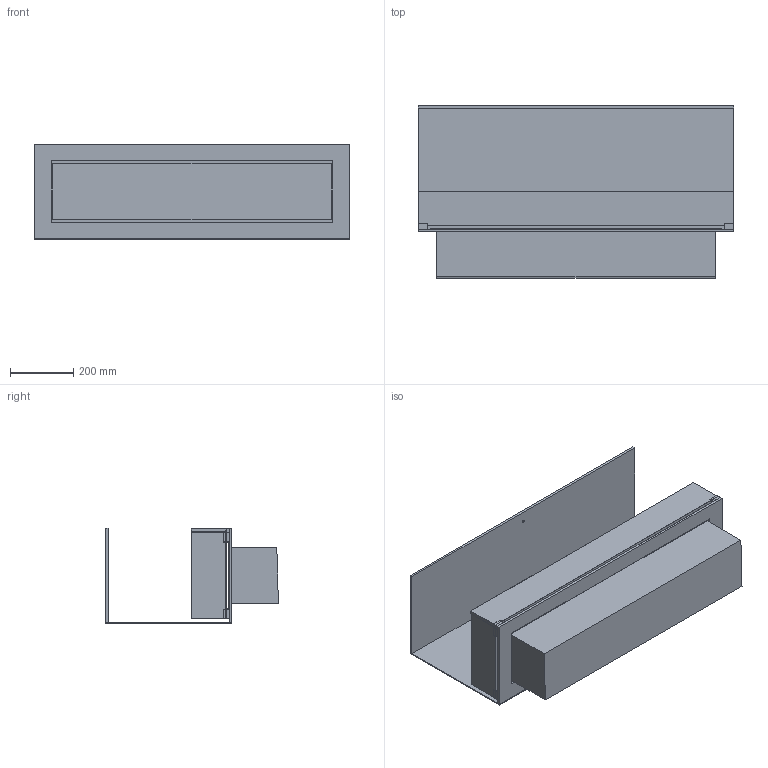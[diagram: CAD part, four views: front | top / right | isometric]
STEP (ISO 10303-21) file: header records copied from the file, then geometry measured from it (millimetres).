
FILE_DESCRIPTION (( 'STEP AP203' ), '1' );
FILE_NAME ('Montreal open to front and 2 sides 1000 F6.STEP', '2024-03-22T10:29:13', ( '' ), ( '' ), 'SwSTEP 2.0', 'SolidWorks 2023', '' );
FILE_SCHEMA (( 'CONFIG_CONTROL_DESIGN' ));
Length unit declared in the file: millimetre
Products named in the file (9): Part4^P&G -1120SI Montreal Single AUTOShowroom -look book; Montreal open to front and 2 sides 1000 F6; Glas holder flad med sider 10mm; 8mm alu Top - P&G -1120SIShowroom -look book; Part2^P&G -1120SI Montreal Single AUTOShowroom -look book; Denver F6; Part3^P&G -1120SI Montreal Single AUTOShowroom -look book; 8mm alu Bund - P&G -1120SIShowroom -look book; 3mm alu Bag - P&G -1120SIShowroom -look book
Assembly tree (14 placements, depth 2):
  Montreal open to front and 2 sides 1000 F6
    8mm alu Top - P&G -1120SIShowroom -look book
    8mm alu Bund - P&G -1120SIShowroom -look book
    3mm alu Bag - P&G -1120SIShowroom -look book
    Glas holder flad med sider 10mm  x7
    Part2^P&G -1120SI Montreal Single AUTOShowroom -look book  x2
    Part4^P&G -1120SI Montreal Single AUTOShowroom -look book
    Denver F6
  Part3^P&G -1120SI Montreal Single AUTOShowroom -look book
Bounding box: 1000 x 548 x 303 mm (x, y, z)
Volume: 31025357.6 mm3; surface area: 3175261.6 mm2
Topology: 18 solids, 18 shells, 242 faces, 529 edges, 330 vertices
Faces by surface type: plane 216, cylinder 26
Entity records: 4821 total; most frequent: CARTESIAN_POINT 642, DIRECTION 639, ORIENTED_EDGE 602, EDGE_CURVE 301, VECTOR 273, LINE 273, VERTEX_POINT 186, AXIS2_PLACEMENT_3D 183
